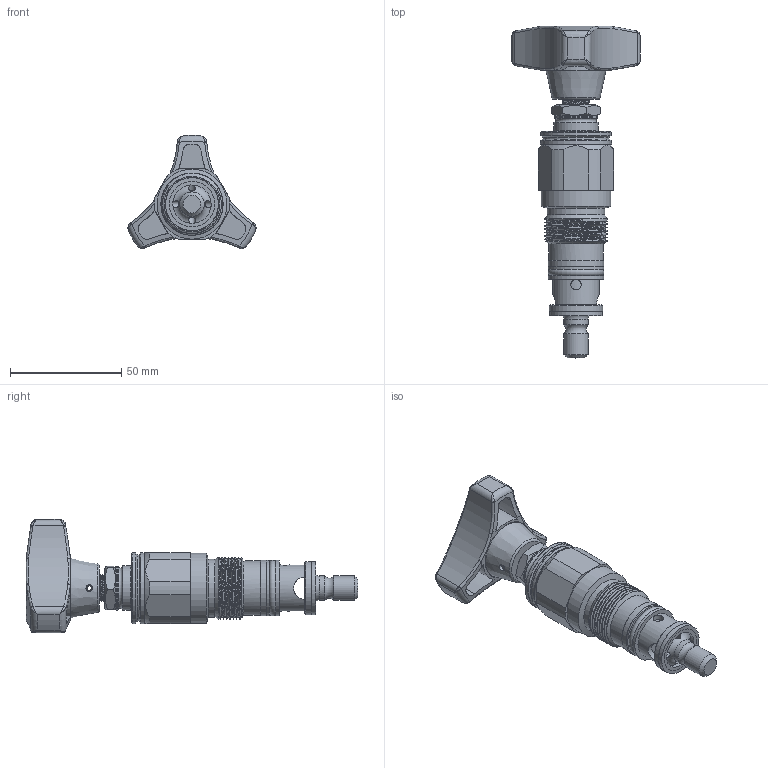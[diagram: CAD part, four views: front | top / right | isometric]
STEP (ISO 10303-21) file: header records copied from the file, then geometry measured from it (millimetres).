
FILE_DESCRIPTION(/* description */ (''),/* implementation_level */ '2;1');
FILE_NAME(/* name */ 'DBDH6K-1XJ插入式直动型溢流阀.prt.stp',/* time_stamp */ '2022-03-30T20:13:33+08:00',/* author */ (''),/* organization */ (''),/* preprocessor_version */ 'ST-DEVELOPER v16.7',/* originating_system */ 'SIEMENS PLM Software NX 12.0',/* authorisation */ '');
FILE_SCHEMA (('AUTOMOTIVE_DESIGN { 1 0 10303 214 3 1 1 1 }'));
Length unit declared in the file: millimetre
Products named in the file (1): DBDH6K-1XJ插入式直动型溢流阀
Bounding box: 57.72 x 149.5 x 51 mm (x, y, z)
Volume: 94611.1 mm3; surface area: 32297.3 mm2
Topology: 13 solids, 14 shells, 428 faces, 1033 edges, 619 vertices
Faces by surface type: plane 220, cylinder 97, bspline 50, cone 38, torus 23
Full cylindrical faces by diameter (mm): 3 x6, 3.1 x2, 4.7 x2, 4.709 x1, 5.209 x1, 6 x1, 10 x4, 11 x2, 16 x1, 16.5 x1, 17.28 x1, 19.7 x1, 20 x1, 20.3 x1, 20.4 x1, 20.48 x2, 21 x1, 23.8 x1, 24 x1, 24.5 x1, 25 x4, 26 x1, 30 x1, 31.5 x1, 32 x2
Entity records: 20013 total; most frequent: CARTESIAN_POINT 11110, ORIENTED_EDGE 1796, DIRECTION 1687, EDGE_CURVE 898, AXIS2_PLACEMENT_3D 696, VERTEX_POINT 584, EDGE_LOOP 543, ADVANCED_FACE 428
